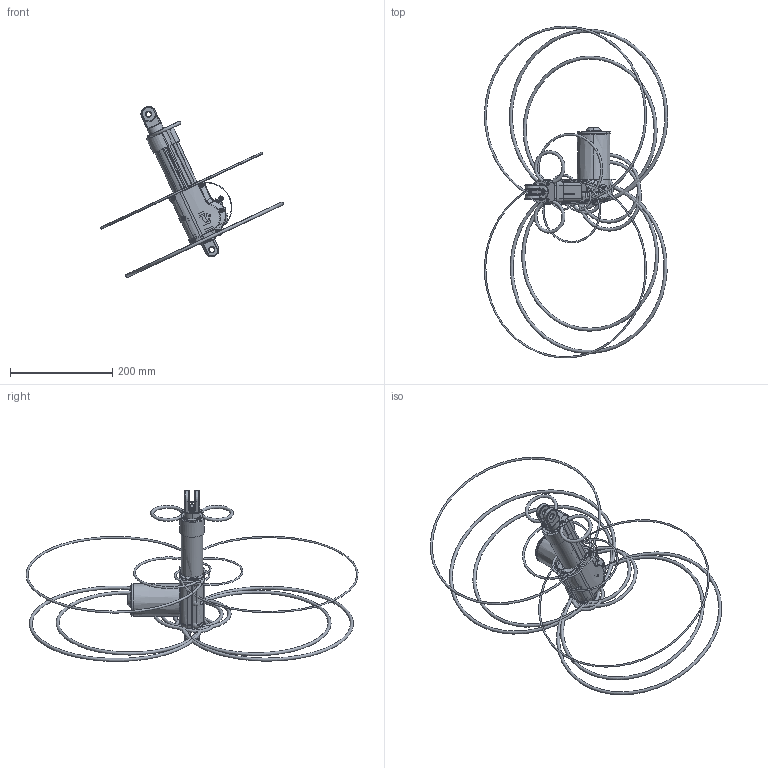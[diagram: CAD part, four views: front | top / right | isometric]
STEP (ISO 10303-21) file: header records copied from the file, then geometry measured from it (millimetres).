
FILE_DESCRIPTION((''),'2;1');
FILE_NAME('ASM0003_ASM','2014-06-03T',('tony'),(''),'PRO/ENGINEER BY PARAMETRIC TECHNOLOGY CORPORATION, 2008090','PRO/ENGINEER BY PARAMETRIC TECHNOLOGY CORPORATION, 2008090','');
FILE_SCHEMA(('CONFIG_CONTROL_DESIGN'));
Products named in the file (7): PRT0026; PRT0027; PRT0028; ASM0002_ASM_ASM; ASM0001_ASM_ASM; 2_ASM; ASM0003_ASM
Assembly tree (6 placements, depth 5):
  ASM0003_ASM
    PRT0026
    2_ASM
      ASM0001_ASM_ASM
        ASM0002_ASM_ASM
          PRT0027
          PRT0028
Bounding box: 358.76 x 649.75 x 334.36 mm (x, y, z)
Surface area: 422016.4 mm2 (no closed solid volume)
Topology: 0 solids, 0 shells, 1650 faces, 9413 edges, 9283 vertices
Faces by surface type: bspline 1496, torus 141, sphere 13
Entity records: 173403 total; most frequent: CARTESIAN_POINT 93733, DIRECTION 12415, TRIMMED_CURVE 10390, DEFINITIONAL_REPRESENTATION 9153, PCURVE 9153, COMPOSITE_CURVE_SEGMENT 9153, VECTOR 8707, LINE 8707
